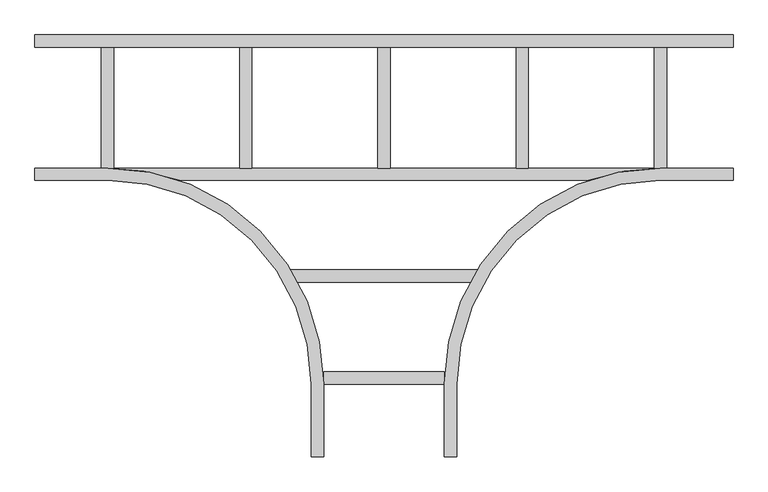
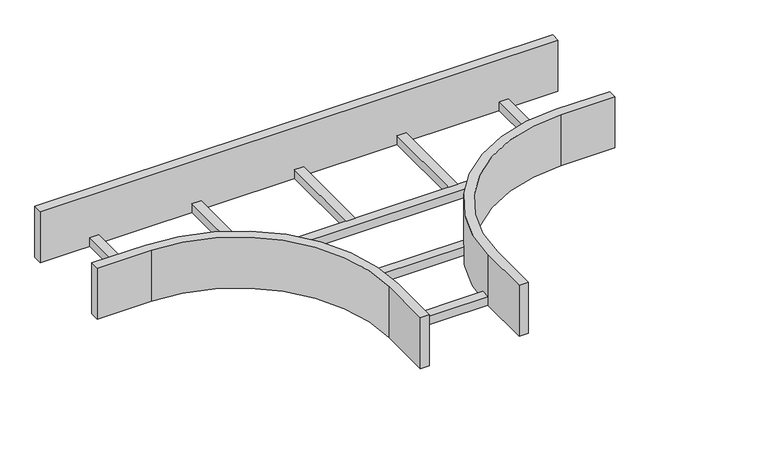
"""IFC4 building model written with IfcOpenShell, lengths in millimetres: cable carrier fitting geometry, BAKS_LD_TEE_Ladder horizontal tee_TDV : TDVP_H150."""

from ifc_helpers import new_model, si_unit, frame, origin, place, context, project, spatial, polyline, circle_curve, outline, extrude, faceted_brep, source, transform, mapped, element, save
from ifc_brep_helpers import plane_surface, cylinder_surface, revolved_surface, advanced_brep


def cable_carrier_fitting_a4a1986d(model_context):
    return source(origin(), model_context, "Body", "SolidModel", [
        extrude(outline(polyline([(191.8889052, -334.6), (191.8889052, -360.0), (-191.8889052, -360.0), (-191.8889052, -334.6), (191.8889052, -334.6)])), frame((0.0, 0.0, -75.0), z_axis=(0.0, 0.0, 1.0), x_axis=(1.0, 0.0, 0.0)), (0.0, 0.0, 1.0), 25.4),
        extrude(outline(polyline([(124.6, -544.6), (124.6, -570.0), (-124.6, -570.0), (-124.6, -544.6), (124.6, -544.6)])), frame((0.0, 0.0, -75.0), z_axis=(0.0, 0.0, 1.0), x_axis=(1.0, 0.0, 0.0)), (0.0, 0.0, 1.0), 25.4),
        extrude(outline(polyline([(582.7, 124.6), (582.7, -124.6), (557.3, -124.6), (557.3, 124.6), (582.7, 124.6)])), frame((0.0, 0.0, -75.0), z_axis=(0.0, 0.0, 1.0), x_axis=(1.0, 0.0, 0.0)), (0.0, 0.0, 1.0), 25.4),
        extrude(outline(polyline([(297.7, 124.6), (297.7, -124.6), (272.3, -124.6), (272.3, 124.6), (297.7, 124.6)])), frame((0.0, 0.0, -75.0), z_axis=(0.0, 0.0, 1.0), x_axis=(1.0, 0.0, 0.0)), (0.0, 0.0, 1.0), 25.4),
        extrude(outline(polyline([(12.7, 124.6), (12.7, -124.6), (-12.7, -124.6), (-12.7, 124.6), (12.7, 124.6)])), frame((0.0, 0.0, -75.0), z_axis=(0.0, 0.0, 1.0), x_axis=(1.0, 0.0, 0.0)), (0.0, 0.0, 1.0), 25.4),
        extrude(outline(polyline([(-272.3, 124.6), (-272.3, -124.6), (-297.7, -124.6), (-297.7, 124.6), (-272.3, 124.6)])), frame((0.0, 0.0, -75.0), z_axis=(0.0, 0.0, 1.0), x_axis=(1.0, 0.0, 0.0)), (0.0, 0.0, 1.0), 25.4),
        extrude(outline(polyline([(-557.3, 124.6), (-557.3, -124.6), (-582.7, -124.6), (-582.7, 124.6), (-557.3, 124.6)])), frame((0.0, 0.0, -75.0), z_axis=(0.0, 0.0, 1.0), x_axis=(1.0, 0.0, 0.0)), (0.0, 0.0, 1.0), 25.4),
        advanced_brep(
        [(-150.0, -570.0, 75.0), (-150.0, -720.0, 75.0), (-124.6, -720.0, 75.0), (-124.6, -570.0, 75.0), (-570.0, -124.6, 75.0), (-720.0, -124.6, 75.0), (-720.0, -150.0, 75.0), (-570.0, -150.0, 75.0), (150.0, -570.0, 75.0), (570.0, -150.0, 75.0), (720.0, -150.0, 75.0), (720.0, -124.6, 75.0), (570.0, -124.6, 75.0), (124.6, -570.0, 75.0), (124.6, -720.0, 75.0), (150.0, -720.0, 75.0), (-150.0, -570.0, -75.0), (-570.0, -150.0, -75.0), (-720.0, -150.0, -75.0), (-720.0, -124.6, -75.0), (720.0, -124.6, -75.0), (720.0, -150.0, -75.0), (570.0, -150.0, -75.0), (150.0, -570.0, -75.0), (150.0, -720.0, -75.0), (124.6, -720.0, -75.0), (124.6, -570.0, -75.0), (421.7395535, -150.0, -75.0), (-421.7395535, -150.0, -75.0), (-124.6, -570.0, -75.0), (-124.6, -720.0, -75.0), (-150.0, -720.0, -75.0), (-421.7395535, -150.0, -49.6), (-570.0, -124.6, -49.6), (570.0, -124.6, -49.6), (-570.0, -150.0, -49.6), (570.0, -150.0, -49.6), (421.7395535, -150.0, -49.6)],
        [
            (0, 1),
            (1, 2),
            (2, 3),
            (3, 4, circle_curve(frame((-570.0, -570.0, 75.0), z_axis=(0.0, 0.0, 1.0), x_axis=(1.0, 0.0, 0.0)), 445.4)),
            (4, 5),
            (5, 6),
            (6, 7),
            (7, 0, circle_curve(frame((-570.0, -570.0, 75.0), z_axis=(0.0, 0.0, -1.0), x_axis=(1.0, 0.0, 0.0)), 420.0)),
            (8, 9, circle_curve(frame((570.0, -570.0, 75.0), z_axis=(0.0, 0.0, -1.0), x_axis=(1.0, 0.0, 0.0)), 420.0)),
            (9, 10),
            (10, 11),
            (11, 12),
            (12, 13, circle_curve(frame((570.0, -570.0, 75.0), z_axis=(0.0, 0.0, 1.0), x_axis=(1.0, 0.0, 0.0)), 445.4)),
            (13, 14),
            (14, 15),
            (15, 8),
            (16, 17, circle_curve(frame((-570.0, -570.0, -75.0), z_axis=(0.0, 0.0, 1.0), x_axis=(1.0, 0.0, 0.0)), 420.0)),
            (17, 18),
            (18, 19),
            (19, 20),
            (20, 21),
            (21, 22),
            (22, 23, circle_curve(frame((570.0, -570.0, -75.0), z_axis=(0.0, 0.0, 1.0), x_axis=(1.0, 0.0, 0.0)), 420.0)),
            (23, 24),
            (24, 25),
            (25, 26),
            (26, 27, circle_curve(frame((570.0, -570.0, -75.0), z_axis=(0.0, 0.0, -1.0), x_axis=(1.0, 0.0, 0.0)), 445.4)),
            (27, 28),
            (28, 29, circle_curve(frame((-570.0, -570.0, -75.0), z_axis=(0.0, 0.0, -1.0), x_axis=(1.0, 0.0, 0.0)), 445.4)),
            (29, 30),
            (30, 31),
            (31, 16),
            (0, 16),
            (31, 1),
            (30, 2),
            (29, 3),
            (28, 32),
            (32, 33, circle_curve(frame((-570.0, -570.0, -49.6), z_axis=(0.0, 0.0, 1.0), x_axis=(1.0, 0.0, 0.0)), 445.4)),
            (33, 4),
            (33, 34),
            (34, 12),
            (11, 20),
            (19, 5),
            (18, 6),
            (17, 35),
            (35, 7),
            (8, 23),
            (22, 36),
            (36, 9),
            (21, 10),
            (34, 37, circle_curve(frame((570.0, -570.0, -49.6), z_axis=(0.0, 0.0, 1.0), x_axis=(1.0, 0.0, 0.0)), 445.4)),
            (37, 27),
            (26, 13),
            (25, 14),
            (24, 15),
            (32, 37),
        ],
        [
            plane_surface(frame((-150.0, -570.0, 75.0), z_axis=(0.0, 0.0, 1.0), x_axis=(0.0, -1.0, 0.0))),
            plane_surface(frame((-150.0, -570.0, -75.0), z_axis=(0.0, 0.0, -1.0), x_axis=(0.0, 1.0, 0.0))),
            plane_surface(frame((-150.0, -570.0, 75.0), z_axis=(-1.0, 0.0, 0.0), x_axis=(0.0, 0.0, -1.0))),
            plane_surface(frame((-150.0, -720.0, 75.0), z_axis=(0.0, -1.0, 0.0), x_axis=(0.0, 0.0, -1.0))),
            plane_surface(frame((-124.6, -720.0, 75.0), z_axis=(1.0, 0.0, 0.0), x_axis=(0.0, 0.0, -1.0))),
            cylinder_surface(frame((-570.0, -570.0, -75.0), z_axis=(0.0, 0.0, 1.0), x_axis=(1.0, 0.0, 0.0)), 445.4),
            plane_surface(frame((-570.0, -124.6, 75.0), z_axis=(0.0, 1.0, 0.0), x_axis=(0.0, 0.0, -1.0))),
            plane_surface(frame((-720.0, -124.6, 75.0), z_axis=(-1.0, 0.0, 0.0), x_axis=(0.0, 0.0, -1.0))),
            plane_surface(frame((-720.0, -150.0, 75.0), z_axis=(0.0, -1.0, 0.0), x_axis=(0.0, 0.0, -1.0))),
            revolved_surface(polyline([(-150.0, -570.0, -75.0), (-150.0, -570.0, 75.0)]), (-570.0, -570.0, -75.0), (0.0, 0.0, -1.0)),
            revolved_surface(polyline([(990.0, -570.0, -75.0), (990.0, -570.0, 75.0)]), (570.0, -570.0, 0.0), (0.0, 0.0, -1.0)),
            plane_surface(frame((570.0, -150.0, 75.0), z_axis=(0.0, -1.0, 0.0), x_axis=(0.0, 0.0, -1.0))),
            plane_surface(frame((720.0, -150.0, 75.0), z_axis=(1.0, 0.0, 0.0), x_axis=(0.0, 0.0, -1.0))),
            cylinder_surface(frame((570.0, -570.0, 0.0), z_axis=(0.0, 0.0, 1.0), x_axis=(1.0, 0.0, 0.0)), 445.4),
            plane_surface(frame((124.6, -570.0, 75.0), z_axis=(-1.0, 0.0, 0.0), x_axis=(0.0, 0.0, -1.0))),
            plane_surface(frame((124.6, -720.0, 75.0), z_axis=(0.0, -1.0, 0.0), x_axis=(0.0, 0.0, -1.0))),
            plane_surface(frame((150.0, -720.0, 75.0), z_axis=(1.0, 0.0, 0.0), x_axis=(0.0, 0.0, -1.0))),
            plane_surface(frame((-570.0, -124.6, -49.6), z_axis=(0.0, 0.0, 1.0), x_axis=(-1.0, 0.0, 0.0))),
            plane_surface(frame((-570.0, -150.0, -49.6), z_axis=(0.0, -1.0, 0.0), x_axis=(0.0, 0.0, -1.0))),
        ],
        [
            (0, [[1, 2, 3, 4, 5, 6, 7, 8]]),
            (0, [[9, 10, 11, 12, 13, 14, 15, 16]]),
            (1, [[17, 18, 19, 20, 21, 22, 23, 24, 25, 26, 27, 28, 29, 30, 31, 32]]),
            (2, [[-1, 33, -32, 34]]),
            (3, [[-2, -34, -31, 35]]),
            (4, [[-3, -35, -30, 36]]),
            (5, [[-4, -36, -29, 37, 38, 39]]),
            (6, [[-5, -39, 40, 41, -12, 42, -20, 43]]),
            (7, [[-6, -43, -19, 44]]),
            (8, [[-7, -44, -18, 45, 46]]),
            (9, [[-8, -46, -45, -17, -33]]),
            (10, [[-9, 47, -23, 48, 49]]),
            (11, [[-10, -49, -48, -22, 50]]),
            (12, [[-11, -50, -21, -42]]),
            (13, [[-13, -41, 51, 52, -27, 53]]),
            (14, [[-14, -53, -26, 54]]),
            (15, [[-15, -54, -25, 55]]),
            (16, [[-16, -55, -24, -47]]),
            (17, [[-40, -38, 56, -51]]),
            (18, [[-28, -52, -56, -37]]),
        ],
    ),
        faceted_brep([(720.0, 150.0, 75.0), (-720.0, 150.0, 75.0), (-720.0, 124.6, 75.0), (720.0, 124.6, 75.0), (720.0, 150.0, -75.0), (720.0, 124.6, -75.0), (-720.0, 124.6, -75.0), (-720.0, 150.0, -75.0)], [[[0, 1, 2, 3]], [[4, 5, 6, 7]], [[1, 0, 4, 7]], [[2, 1, 7, 6]], [[3, 2, 6, 5]], [[0, 3, 5, 4]]]),
    ])


if __name__ == "__main__":
    model = new_model("IFC4")
    model_context = context("Model", 3, world=origin())
    ifc_project = project(units=[si_unit("LENGTHUNIT", "METRE", prefix="MILLI")], contexts=[model_context])
    site = spatial("IfcSite", under=ifc_project)
    building = spatial("IfcBuilding", under=site)
    placement = place(None, origin())
    cable_carrier_fitting_shape = cable_carrier_fitting_a4a1986d(model_context)
    element("IfcCableCarrierFitting", 1, ObjectType="BAKS_LD_TEE_Ladder horizontal tee_TDV : TDVP_H150", at=placement, inside=building, context=model_context, shape_type="MappedRepresentation", body=[
        mapped(cable_carrier_fitting_shape, transform((0.0, 0.0, 0.0), x_axis=(1.0, 0.0, 0.0), y_axis=(0.0, 1.0, 0.0), z_axis=(0.0, 0.0, 1.0))),
    ])
    save(model, "model.ifc")
